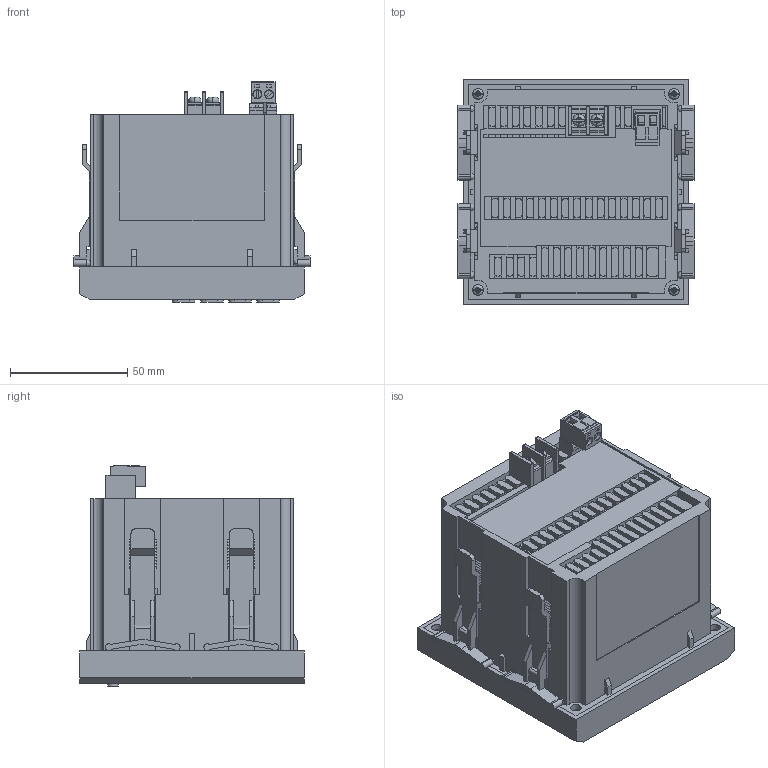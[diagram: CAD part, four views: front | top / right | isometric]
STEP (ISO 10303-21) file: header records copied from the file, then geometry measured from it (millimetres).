
FILE_DESCRIPTION (( 'STEP AP203' ), '1' );
FILE_NAME ('AMD-991 ASTER.STEP', '2019-12-02T21:30:19', ( '' ), ( '' ), 'SwSTEP 2.0', 'SolidWorks 2017', '' );
FILE_SCHEMA (( 'CONFIG_CONTROL_DESIGN' ));
Products named in the file (1): AMD-991 ASTER
Bounding box: 100.8 x 96 x 94 mm (x, y, z)
Volume: 535686.8 mm3; surface area: 82343.1 mm2
Topology: 1 solids, 9 shells, 1692 faces, 4956 edges, 3234 vertices
Faces by surface type: plane 1269, cylinder 320, bspline 79, torus 20, cone 4
Entity records: 62483 total; most frequent: CARTESIAN_POINT 18794, ORIENTED_EDGE 9872, DIRECTION 7834, EDGE_CURVE 4936, VECTOR 3702, LINE 3702, VERTEX_POINT 3234, AXIS2_PLACEMENT_3D 2066
